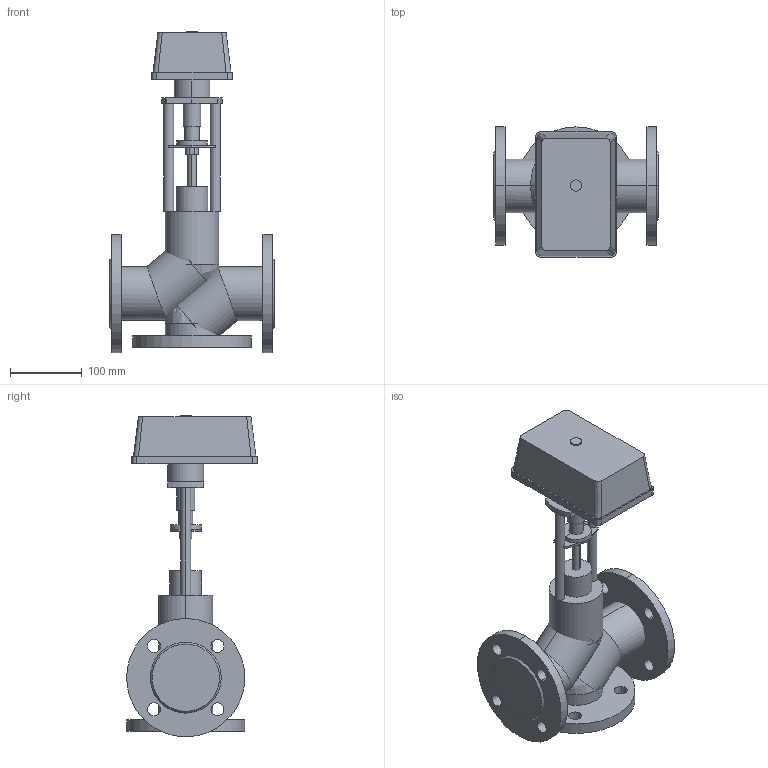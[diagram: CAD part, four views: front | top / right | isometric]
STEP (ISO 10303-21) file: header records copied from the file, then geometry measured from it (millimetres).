
FILE_DESCRIPTION(/* description */ (''),/* implementation_level */ '2;1');
FILE_NAME(/* name */ 'ТРК DN50 PN 1.6 МПа МИЭП-1 1600',/* time_stamp */ '2026-07-14T23:29:22+03:00',/* author */ (''),/* organization */ (''),/* preprocessor_version */ 'ST-DEVELOPER v20',/* originating_system */ '',/* authorisation */ '');
FILE_SCHEMA (('AP242_MANAGED_MODEL_BASED_3D_ENGINEERING_MIM_LF { 1 0 10303 442 1 1 4 }'));
Length unit declared in the file: millimetre
Products named in the file (13): TopLevelAssembly; Выдавливание; Модификатор; Модификатор_1; Выдавливание_
1; Выдавливание_
2; Вращение; Выдавливание_
3; Выдавливание_
4; 1600; Переход; Объемная геометрия 
присоединена; Объемная геометрия 
присоединена_1
Assembly tree (12 placements, depth 2):
  TopLevelAssembly
    Выдавливание
    Модификатор
    Модификатор_1
    Выдавливание_
1
    Выдавливание_
2
    Вращение
    Выдавливание_
3
    Выдавливание_
4
    1600
    Переход
    Объемная геометрия 
присоединена
    Объемная геометрия 
присоединена_1
Bounding box: 230 x 182.5 x 448.5 mm (x, y, z)
Volume: 4042933.7 mm3; surface area: 483363.5 mm2
Topology: 22 solids, 22 shells, 168 faces, 354 edges, 224 vertices
Faces by surface type: plane 78, cylinder 78, bspline 8, cone 4
Entity records: 5151 total; most frequent: CARTESIAN_POINT 951, DIRECTION 895, ORIENTED_EDGE 692, AXIS2_PLACEMENT_3D 364, EDGE_CURVE 346, VERTEX_POINT 224, EDGE_LOOP 198, CIRCLE 171
